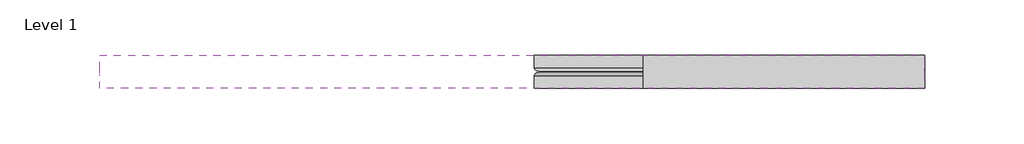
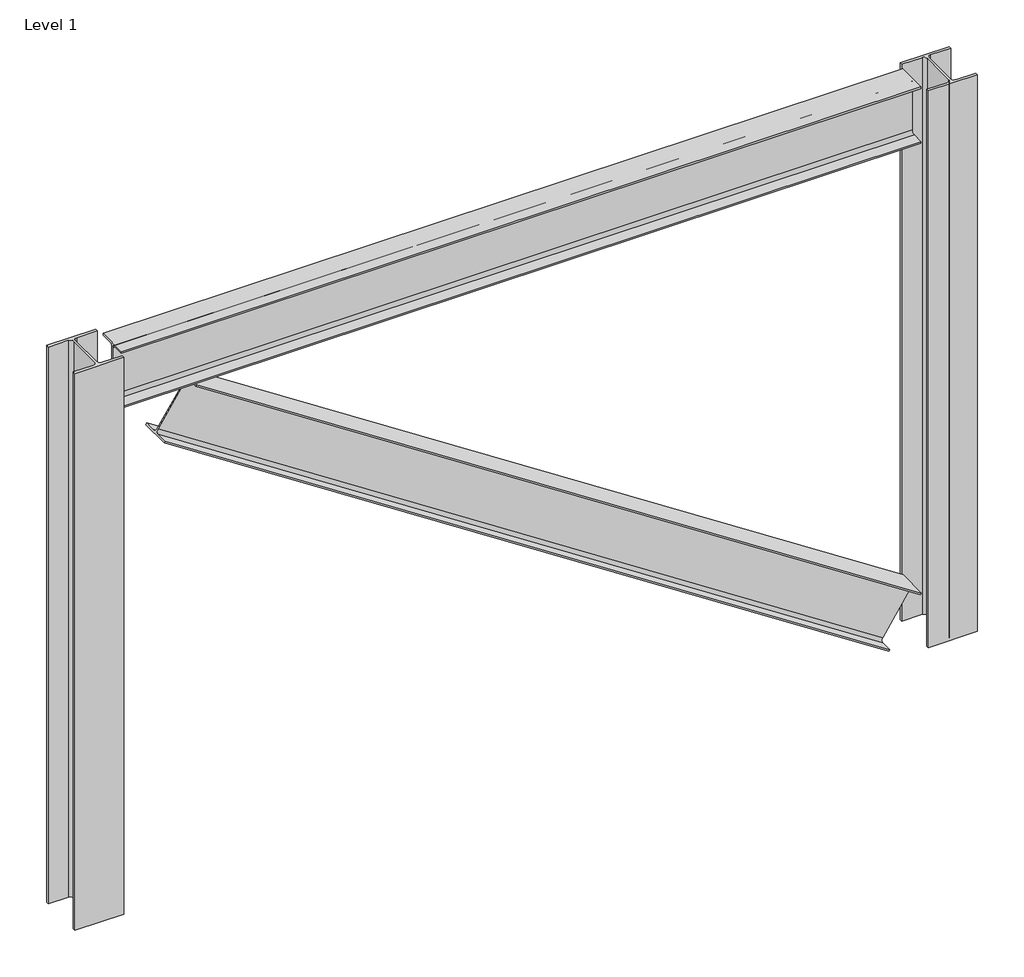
# One storey: 2 beams, 2 columns, 1 member.
"""IFC4 building model written with IfcOpenShell, lengths in millimetres."""

from ifc_helpers import new_model, si_unit, origin, place, context, project, spatial, transform, mapped, element, save
from components import w_wide_flange_w12x26_1ea5d3b6, w_wide_flange_column_w10x49_f24ffb9b, w_wide_flange_w12x26_a27a9426

model = new_model("IFC4")

# Units and contexts
model_context = context("Model", 3, world=origin())
ifc_project = project(units=[si_unit("LENGTHUNIT", "METRE", prefix="MILLI")], contexts=[model_context])

# Site, building, storey
site = spatial("IfcSite", under=ifc_project)
building = spatial("IfcBuilding", under=site)
storey = spatial("IfcBuildingStorey", under=building, Name="Level 1", Elevation=0.0)

# Beams
placement = place(None, origin())
w_wide_flange_w12x26_shape = w_wide_flange_w12x26_1ea5d3b6(model_context)
element("IfcBeam", 1, ObjectType="W-Wide Flange : W12X26", at=placement, inside=storey, context=model_context, shape_type="MappedRepresentation", body=[
    mapped(w_wide_flange_w12x26_shape, transform((-15213.7563571, 12266.4911433, 2892.821875), x_axis=(1.0, 0.0, 0.0), y_axis=(0.0, 1.0, 0.0), z_axis=(0.0, 0.0, 1.0))),
])
element("IfcBeam", 2, ObjectType="W-Wide Flange : W12X26", at=placement, inside=storey, context=model_context, shape_type="MappedRepresentation", body=[
    mapped(w_wide_flange_w12x26_shape, transform((-15213.7563571, 12266.4911433, 2892.821875), x_axis=(1.0, 0.0, 0.0), y_axis=(0.0, 1.0, 0.0), z_axis=(0.0, 0.0, 1.0))),
])

# Columns
w_wide_flange_column_w10x49_shape = w_wide_flange_column_w10x49_f24ffb9b(model_context)
element("IfcColumn", 3, ObjectType="W-Wide Flange-Column : W10X49", at=placement, inside=storey, context=model_context, shape_type="MappedRepresentation", body=[
    mapped(w_wide_flange_column_w10x49_shape, transform((-17423.5563571, 12266.4911433, 0.0), x_axis=(1.0, 0.0, 0.0), y_axis=(0.0, 1.0, 0.0), z_axis=(0.0, 0.0, 1.0))),
])
element("IfcColumn", 4, ObjectType="W-Wide Flange-Column : W10X49", at=placement, inside=storey, context=model_context, shape_type="MappedRepresentation", body=[
    mapped(w_wide_flange_column_w10x49_shape, transform((-13003.9563571, 12266.4911433, 0.0), x_axis=(1.0, 0.0, 0.0), y_axis=(0.0, 1.0, 0.0), z_axis=(0.0, 0.0, 1.0))),
])

# Member
w_wide_flange_w12x26_2_shape = w_wide_flange_w12x26_a27a9426(model_context)
element("IfcMember", 5, ObjectType="W-Wide Flange : W12X26", at=placement, inside=storey, context=model_context, shape_type="MappedRepresentation", body=[
    mapped(w_wide_flange_w12x26_2_shape, transform((-15213.7563571, 12266.4911433, 1446.4109375), x_axis=(0.8367021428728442, 0.0, -0.54765821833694), y_axis=(0.0, 1.0000000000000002, 0.0), z_axis=(0.54765821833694, 0.0, 0.8367021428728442))),
])

save(model, "model.ifc")
